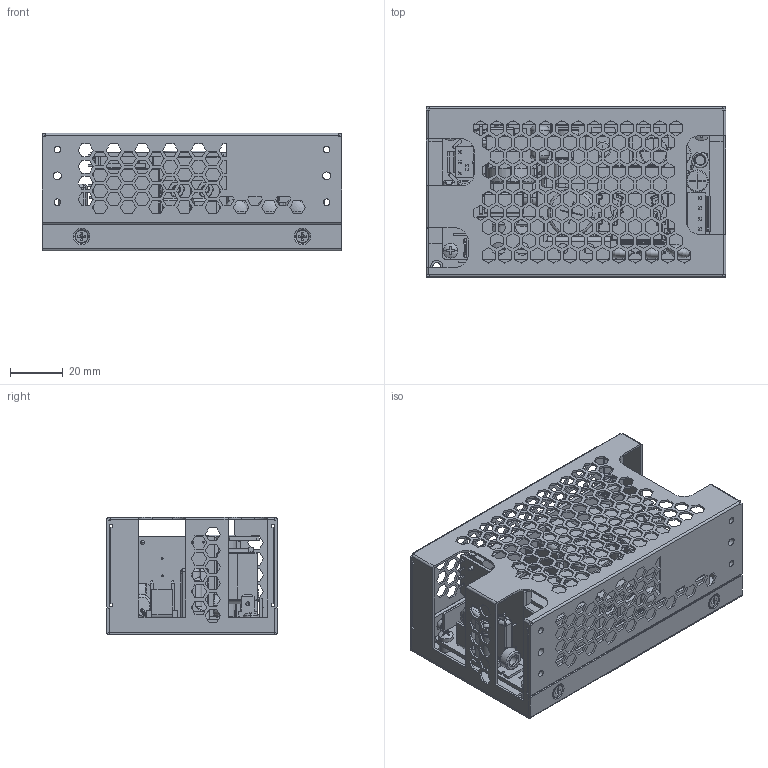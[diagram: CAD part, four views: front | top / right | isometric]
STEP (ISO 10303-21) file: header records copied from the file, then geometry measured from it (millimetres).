
FILE_DESCRIPTION((''),'2;1');
FILE_NAME('MDS-200ADB12_AA_ASM','2016-06-02T',('TONY.CH.YU'),(''),'PRO/ENGINEER BY PARAMETRIC TECHNOLOGY CORPORATION, 2010280','PRO/ENGINEER BY PARAMETRIC TECHNOLOGY CORPORATION, 2010280','');
FILE_SCHEMA(('CONFIG_CONTROL_DESIGN'));
Products named in the file (75): MDS-200APB24_PWB; B4P-VH_1; C1_1; 2001_PQ2628_CORE_3RD_1_1; 2002_PQ2628_BBN_3RD_6_1; 2003_PQ2625_BASE__3RD_3_1; T1_1_ASM; L2_CORE_1; L2_BBN_1; L2_COIL_1; L2_1_ASM; TAP_TONGUE_1; INPUT_1718130003_1; MANIFOLD_SOLID_BREP_41845; MANIFOLD_SOLID_BREP_42849; FL1_1_ASM; MANIFOLD_SOLID_BREP_43425; MANIFOLD_SOLID_BREP_44456; L1_1_ASM; NTC_1; C6_1; TDC-282_1-51756; CX1_1; MANIFOLD_SOLID_BREP_53401; MANIFOLD_SOLID_BREP_54628; FL2_1_ASM; B9PS-BC-1_1; HSK1_1-59621; BD1_1; 3105319100_M3X8_GB822_1; HSK1_1-59630_ASM; TDC-282_1-51765_ASM; CY_1; C5_1; C3_1; C25_1; C111_1; C112_C114_1; HSK2_1-76966; PIN001_1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
Assembly tree (95 placements, depth 5):
  MDS-200ADB12_AA_ASM
    MDS-200APB12_AA_ASM
      MDS-200APB24_PWB
      B4P-VH_1
      C1_1
      T1_1_ASM
        2001_PQ2628_CORE_3RD_1_1  x2
        2002_PQ2628_BBN_3RD_6_1
        2003_PQ2625_BASE__3RD_3_1
      L2_1_ASM
        L2_CORE_1  x2
        L2_BBN_1
        L2_COIL_1
      TAP_TONGUE_1
      INPUT_1718130003_1
      FL1_1_ASM
        MANIFOLD_SOLID_BREP_41845
        MANIFOLD_SOLID_BREP_42849
      L1_1_ASM
        MANIFOLD_SOLID_BREP_43425
        MANIFOLD_SOLID_BREP_44456
      NTC_1
      C6_1
      TDC-282_1-51765_ASM
        TDC-282_1-51756
        CX1_1
        FL2_1_ASM
          MANIFOLD_SOLID_BREP_53401
          MANIFOLD_SOLID_BREP_54628
        B9PS-BC-1_1
        HSK1_1-59630_ASM
          HSK1_1-59621
          BD1_1
          3105319100_M3X8_GB822_1
      CY_1  x3
      C5_1
      C3_1
      C25_1
      C111_1
      C112_C114_1  x2
      HSK_2_1_ASM
        HSK2_1-76976_ASM
          HSK2_1-76966
          PIN001_1
          PIN002_1
        Q5_Q4_Q3_1
        D10_1
        3105456700_M3X7_GB819_1  x2
        3110110100_M3_GB6170_1  x2
      HSK3_1-84623_ASM
        HSK3_1-84614
        Q5_Q4_Q3_1  x2
        3105451900_M3X11_GB822_1
        3110110100_M3_GB6170_1
      HSK4_1
      C26_1
      L101_1_ASM
        MANIFOLD_SOLID_BREP_90121
        MANIFOLD_SOLID_BREP_93156
      L3_1_ASM
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Bounding box: 113.9 x 64.7 x 44.7 mm (x, y, z)
Volume: 95203.8 mm3; surface area: 135141.9 mm2
Topology: 82 solids, 82 shells, 5322 faces, 14792 edges, 9695 vertices
Faces by surface type: plane 3492, cylinder 1217, torus 215, bspline 192, cone 134, sphere 42, extrusion 20, revolution 10
Entity records: 162537 total; most frequent: CARTESIAN_POINT 38942, ORIENTED_EDGE 25810, DIRECTION 24703, EDGE_CURVE 12905, VECTOR 9589, LINE 9569, VERTEX_POINT 8522, AXIS2_PLACEMENT_3D 7554
